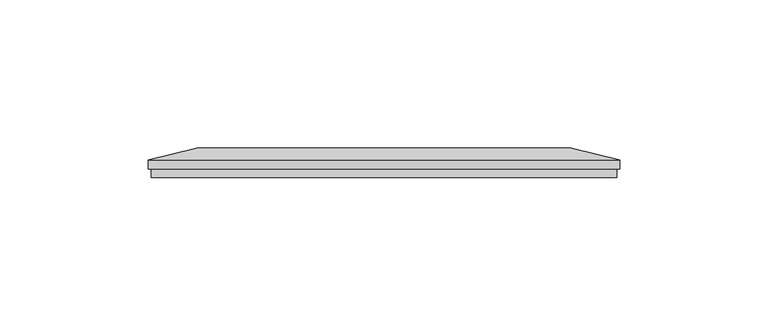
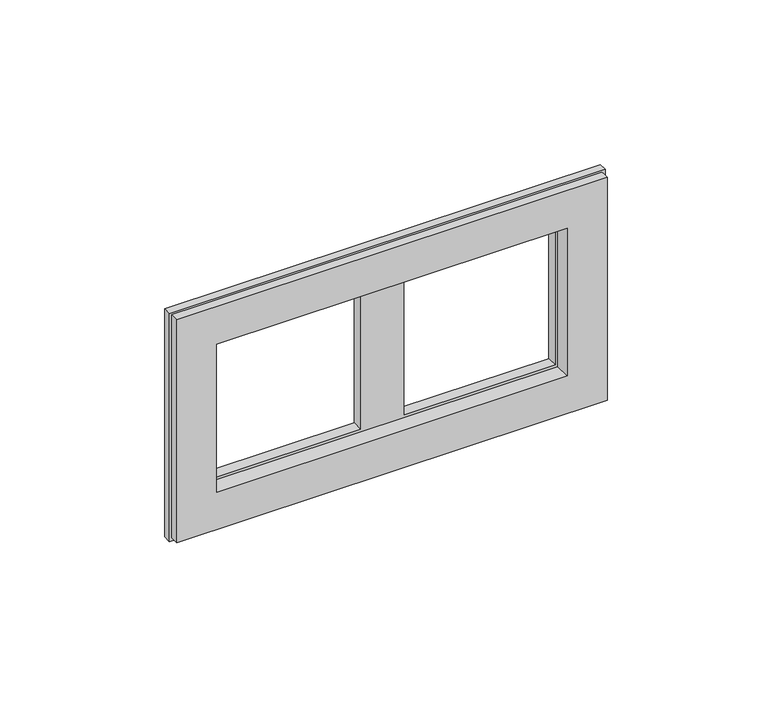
"""IFC4 building model written with IfcOpenShell, lengths in millimetres: proxy geometry, IEK_Brite_Рамка : x2_РУ-2-Бр алюм.-алюм.."""

from ifc_helpers import new_model, si_unit, frame, origin, place, context, project, spatial, polyline, outline, extrude, faceted_brep, source, transform, mapped, element, save


def electrical_fixtures_1388bda7(model_context):
    return source(origin(), model_context, "Body", "SolidModel", [
        extrude(outline(polyline([(43.0, -114.0), (-43.0, -114.0), (-43.0, 43.0), (43.0, 43.0), (43.0, -114.0)]), holes=[polyline([(28.5, -99.5), (28.5, 28.5), (-28.5, 28.5), (-28.5, -99.5), (28.5, -99.5)])]), frame((0.0, 0.0, 0.0), z_axis=(0.0, 1.0, 0.0), x_axis=(0.0, 0.0, 1.0)), (0.0, 0.0, 1.0), 6.0),
        faceted_brep([(-27.5, 10.0, 27.5), (-27.5, 10.0, -27.5), (-43.5, 10.0, -27.5), (-43.5, 10.0, 27.5), (43.0, 6.0, 43.0), (-114.0, 6.0, 43.0), (-114.0, 6.0, -43.0), (43.0, 6.0, -43.0), (-98.5, 6.0, -27.5), (-98.5, 6.0, 27.5), (-43.5, 6.0, 27.5), (-43.5, 6.0, -27.5), (-27.5, 6.0, -27.5), (-27.5, 6.0, 27.5), (27.5, 6.0, 27.5), (27.5, 6.0, -27.5), (44.0, 6.0, 44.0), (27.5, 10.0, 27.5), (-98.5, 10.0, 27.5), (-115.0, 6.0, 44.0), (44.0, 6.0, -44.0), (27.5, 10.0, -27.5), (-115.0, 6.0, -44.0), (-98.5, 10.0, -27.5), (-115.0, 3.0, 44.0), (-115.0, 3.0, -44.0), (44.0, 3.0, -44.0), (44.0, 3.0, 44.0), (-114.0, 3.0, 43.0), (43.0, 3.0, 43.0), (43.0, 3.0, -43.0), (-114.0, 3.0, -43.0)], [[[0, 1, 2, 3]], [[4, 5, 6, 7], [8, 9, 10, 11], [12, 13, 14, 15]], [[16, 17, 0, 3, 18, 19]], [[17, 16, 20, 21]], [[21, 20, 22, 23, 2, 1]], [[19, 18, 23, 22]], [[24, 25, 26, 27], [28, 29, 30, 31]], [[25, 24, 19, 22]], [[26, 25, 22, 20]], [[27, 26, 20, 16]], [[24, 27, 16, 19]], [[29, 28, 5, 4]], [[30, 29, 4, 7]], [[31, 30, 7, 6]], [[28, 31, 6, 5]], [[18, 9, 8, 23]], [[23, 8, 11, 2]], [[2, 11, 10, 3]], [[9, 18, 3, 10]], [[0, 13, 12, 1]], [[1, 12, 15, 21]], [[21, 15, 14, 17]], [[13, 0, 17, 14]]]),
    ])


if __name__ == "__main__":
    model = new_model("IFC4")
    model_context = context("Model", 3, world=origin())
    ifc_project = project(units=[si_unit("LENGTHUNIT", "METRE", prefix="MILLI")], contexts=[model_context])
    site = spatial("IfcSite", under=ifc_project)
    building = spatial("IfcBuilding", under=site)
    placement = place(None, origin())
    electrical_fixtures_shape = electrical_fixtures_1388bda7(model_context)
    element("IfcBuildingElementProxy", 1, Name="IEK_Brite_Рамка : x2_РУ-2-Бр алюм.-алюм.", ObjectType="IEK_Brite_Рамка : x2_РУ-2-Бр алюм.-алюм.", at=placement, inside=building, context=model_context, shape_type="MappedRepresentation", body=[
        mapped(electrical_fixtures_shape, transform((0.0, 0.0, 0.0), x_axis=(1.0, 0.0, 0.0), y_axis=(0.0, 1.0, 0.0), z_axis=(0.0, 0.0, 1.0))),
    ])
    save(model, "model.ifc")
